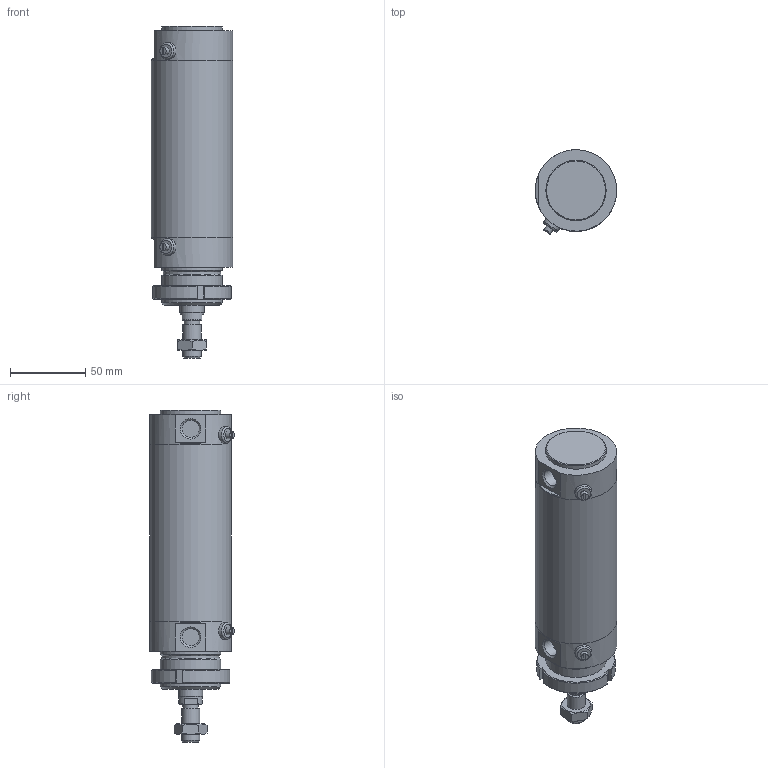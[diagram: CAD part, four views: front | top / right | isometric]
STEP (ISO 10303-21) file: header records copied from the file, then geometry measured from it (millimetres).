
FILE_DESCRIPTION(/* description */ (''),/* implementation_level */ '2;1');
FILE_NAME(/* name */ 'I:\Area Tecnica\Documenti\A-Manieri\_Inventor\12X\12X#D_###_####_#_#\12XBD_050_0075_#_#.stp',/* time_stamp */ '2015-05-04T15:12:36+02:00',/* author */ ('maniean1'),/* organization */ ('Pneumax S.p.A.'),/* preprocessor_version */ 'ST-DEVELOPER v15.2',/* originating_system */ 'Autodesk Inventor 2014',/* authorisation */ '');
FILE_SCHEMA (('AUTOMOTIVE_DESIGN { 1 0 10303 214 3 1 1 }'));
Length unit declared in the file: millimetre
Products named in the file (7): C1250_619-0075; 12X50_606; S12X50_0075; 12X_50_11; 12X50_612; G12X_050_05; 12XBD_050_0075_#_#
Bounding box: 54 x 55.88 x 220 mm (x, y, z)
Volume: 275764.2 mm3; surface area: 84123 mm2
Topology: 6 solids, 6 shells, 99 faces, 217 edges, 140 vertices
Faces by surface type: plane 53, cylinder 25, cone 19, torus 2
Full cylindrical faces by diameter (mm): 5 x2, 10.2 x1, 11 x2, 11.4 x2, 12 x2, 14 x1, 15.6 x1, 16 x1, 38.2 x1, 40 x4, 50 x2, 54 x3
Entity records: 2667 total; most frequent: CARTESIAN_POINT 540, DIRECTION 444, ORIENTED_EDGE 348, AXIS2_PLACEMENT_3D 188, EDGE_CURVE 174, EDGE_LOOP 152, VERTEX_POINT 132, ADVANCED_FACE 99
